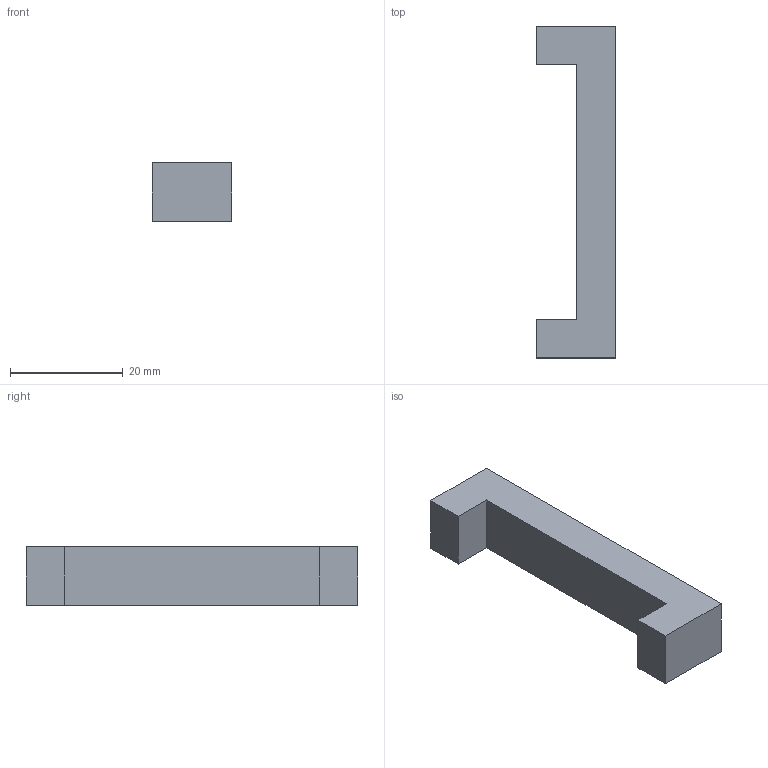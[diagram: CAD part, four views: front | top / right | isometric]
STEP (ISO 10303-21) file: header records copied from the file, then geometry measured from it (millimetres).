
FILE_DESCRIPTION(/* description */ (''),/* implementation_level */ '2;1');
FILE_NAME(/* name */ 'Makey Mold brace',/* time_stamp */ '2025-11-30T21:14:26-05:00',/* author */ (''),/* organization */ (''),/* preprocessor_version */ 'ST-DEVELOPER v19.2',/* originating_system */ 'Rhino 8.14',/* authorisation */ '');
FILE_SCHEMA (('CONFIG_CONTROL_DESIGN'));
Length unit declared in the file: inch
Products named in the file (1): Document
Bounding box: 13.99 x 58.76 x 10.35 mm (x, y, z)
Volume: 5195.1 mm3; surface area: 2656.8 mm2
Topology: 1 solids, 1 shells, 10 faces, 24 edges, 16 vertices
Faces by surface type: plane 10
Entity records: 342 total; most frequent: CARTESIAN_POINT 76, ORIENTED_EDGE 48, EDGE_CURVE 24, B_SPLINE_CURVE_WITH_KNOTS 24, VERTEX_POINT 16, DIRECTION 14, AXIS2_PLACEMENT_3D 12, ADVANCED_FACE 10
